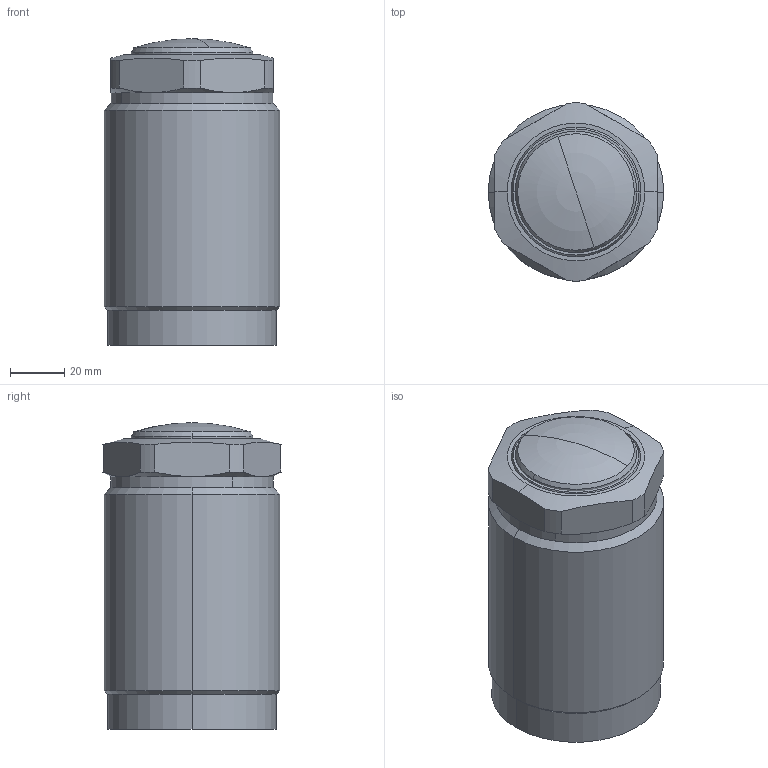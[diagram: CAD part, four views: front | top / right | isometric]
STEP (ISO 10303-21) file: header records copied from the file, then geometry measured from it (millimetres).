
FILE_DESCRIPTION((' '),'2;1');
FILE_NAME( 'TGP65-RL.x_t.stp', '2025-02-10T16:03:58', (' '), ('--- Datakit www.datakit.com---'), ' Datakit CrossCadWare V2024.1 Dec 21 2023', 'Mastercam 2025', ' ');
FILE_SCHEMA(('AUTOMOTIVE_DESIGN { 1 0 10303 214 1 1 1 1 }'));
Length unit declared in the file: millimetre
Products named in the file (1): TGP65-RL
Bounding box: 65 x 65.97 x 113.5 mm (x, y, z)
Volume: 411401.6 mm3; surface area: 38816.1 mm2
Topology: 2 solids, 2 shells, 66 faces, 166 edges, 103 vertices
Faces by surface type: cone 24, cylinder 24, plane 12, torus 6
Entity records: 2084 total; most frequent: CARTESIAN_POINT 470, DIRECTION 360, ORIENTED_EDGE 320, EDGE_CURVE 160, AXIS2_PLACEMENT_3D 153, VERTEX_POINT 103, CIRCLE 86, EDGE_LOOP 71
